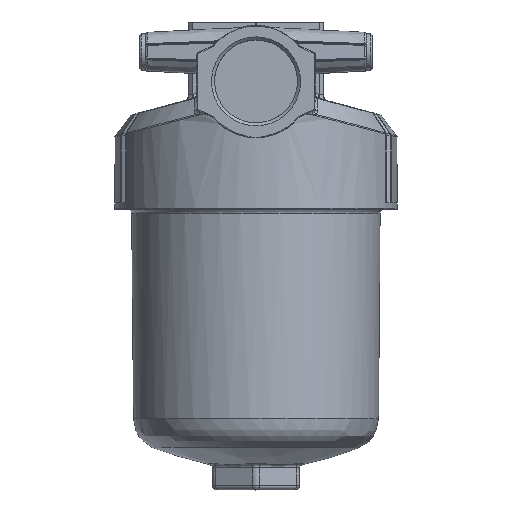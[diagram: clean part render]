
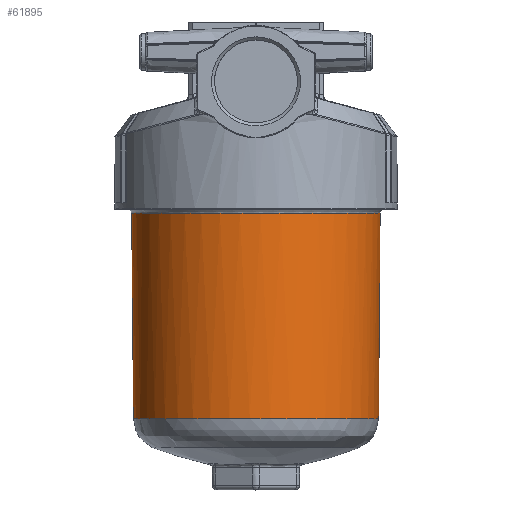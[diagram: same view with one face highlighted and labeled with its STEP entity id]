
A CAD part, top view. The second image highlights one B-rep face of the part: STEP entity #61895.
In plain terms, the highlighted free-form (B-spline) face has degree [2, 1] with [7, 2] control points.
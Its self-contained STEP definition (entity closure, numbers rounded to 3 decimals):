
#61808=CARTESIAN_POINT('V532',(0.,
   -126.53,-57.64));
#61809=VERTEX_POINT('V532',#61808);
#61825=CARTESIAN_POINT('E968',(0.,
   -126.53,-57.64));
#61826=CARTESIAN_POINT('E968',(-99.836,
   -126.53,-57.64));
#61827=CARTESIAN_POINT('E968',(-49.918,
   -126.53,28.82));
#61828=CARTESIAN_POINT('E968',(0.,
   -126.53,115.28));
#61829=CARTESIAN_POINT('E968',(49.918,
   -126.53,28.82));
#61830=CARTESIAN_POINT('E968',(99.836,
   -126.53,-57.64));
#61831=CARTESIAN_POINT('E968',(0.,
   -126.53,-57.64));
#61839=(BOUNDED_CURVE()B_SPLINE_CURVE(2,(#61825,#61826,#61827,
   #61828,#61829,#61830,#61831),.CIRCULAR_ARC.,.T.,.U.)
   B_SPLINE_CURVE_WITH_KNOTS((3,2,2,3),(0.0,2.083,
   4.166,6.249),.UNSPECIFIED.)CURVE()
   GEOMETRIC_REPRESENTATION_ITEM()RATIONAL_B_SPLINE_CURVE((1.0,
   0.5,1.0,0.5,1.0,0.5,1.0)
   )REPRESENTATION_ITEM('E968'));
#61840=EDGE_CURVE('E968',#61809,#61809,#61839,.T.);
#61845=CARTESIAN_POINT('F395',(0.,
   -126.53,-57.64));
#61846=CARTESIAN_POINT('F395',(-99.836,
   -126.53,-57.64));
#61847=CARTESIAN_POINT('F395',(-49.918,
   -126.53,28.82));
#61848=CARTESIAN_POINT('F395',(0.,
   -126.53,115.28));
#61849=CARTESIAN_POINT('F395',(49.918,
   -126.53,28.82));
#61850=CARTESIAN_POINT('F395',(99.836,
   -126.53,-57.64));
#61851=CARTESIAN_POINT('F395',(0.,
   -126.53,-57.64));
#61852=CARTESIAN_POINT('F395',(0.,
   -29.983,-58.483));
#61853=CARTESIAN_POINT('F395',(-101.295,
   -29.983,-58.483));
#61854=CARTESIAN_POINT('F395',(-50.648,
   -29.983,29.241));
#61855=CARTESIAN_POINT('F395',(0.,-29.983,
   116.965));
#61856=CARTESIAN_POINT('F395',(50.648,
   -29.983,29.241));
#61857=CARTESIAN_POINT('F395',(101.295,
   -29.983,-58.483));
#61858=CARTESIAN_POINT('F395',(0.,
   -29.983,-58.483));
#61866=(BOUNDED_SURFACE()B_SPLINE_SURFACE(2,1,((#61845,#61852),(
   #61846,#61853),(#61847,#61854),(#61848,#61855),(#61849,
   #61856),(#61850,#61857),(#61851,#61858)),.CONICAL_SURF.,.T.,
   .F.,.U.)B_SPLINE_SURFACE_WITH_KNOTS((3,2,2,3),(2,2),(0.0,
   2.083,4.166,6.249),(0.0,1.0),
   .UNSPECIFIED.)GEOMETRIC_REPRESENTATION_ITEM()
   RATIONAL_B_SPLINE_SURFACE(((1.0,1.0),(0.5,
   0.5),(1.0,1.0),(0.5,
   0.5),(1.0,1.0),(0.5,
   0.5),(1.0,1.0)))REPRESENTATION_ITEM('F395')
   SURFACE());
#61867=CARTESIAN_POINT('V534',(0.,
   -29.983,-58.483));
#61868=VERTEX_POINT('V534',#61867);
#61869=CARTESIAN_POINT('E969',(0.,
   -29.983,-58.483));
#61870=CARTESIAN_POINT('E969',(0.,
   -126.53,-57.64));
#61871=QUASI_UNIFORM_CURVE('E969',1,(#61869,#61870),.POLYLINE_FORM.,
   .F.,.U.);
#61872=EDGE_CURVE('E969',#61868,#61809,#61871,.T.);
#61873=ORIENTED_EDGE('E969',*,*,#61872,.T.);
#61874=ORIENTED_EDGE('F394',*,*,#61840,.T.);
#61875=ORIENTED_EDGE('E969',*,*,#61872,.F.);
#61876=CARTESIAN_POINT('E970',(0.,
   -29.983,-58.483));
#61877=CARTESIAN_POINT('E970',(101.295,
   -29.983,-58.483));
#61878=CARTESIAN_POINT('E970',(50.648,
   -29.983,29.241));
#61879=CARTESIAN_POINT('E970',(0.,-29.983,
   116.965));
#61880=CARTESIAN_POINT('E970',(-50.648,
   -29.983,29.241));
#61881=CARTESIAN_POINT('E970',(-101.295,
   -29.983,-58.483));
#61882=CARTESIAN_POINT('E970',(0.,
   -29.983,-58.483));
#61890=(BOUNDED_CURVE()B_SPLINE_CURVE(2,(#61876,#61877,#61878,
   #61879,#61880,#61881,#61882),.CIRCULAR_ARC.,.T.,.U.)
   B_SPLINE_CURVE_WITH_KNOTS((3,2,2,3),(0.0,51.609,
   103.217,154.826),.UNSPECIFIED.)CURVE()
   GEOMETRIC_REPRESENTATION_ITEM()RATIONAL_B_SPLINE_CURVE((1.0,
   0.5,1.0,0.5,1.0,0.5,1.0)
   )REPRESENTATION_ITEM('E970'));
#61891=EDGE_CURVE('E970',#61868,#61868,#61890,.T.);
#61892=ORIENTED_EDGE('E970',*,*,#61891,.T.);
#61893=EDGE_LOOP('F395',(#61873,#61874,#61875,#61892));
#61894=FACE_OUTER_BOUND('F395',#61893,.T.);
#61895=ADVANCED_FACE('F395',(#61894),#61866,.T.);
